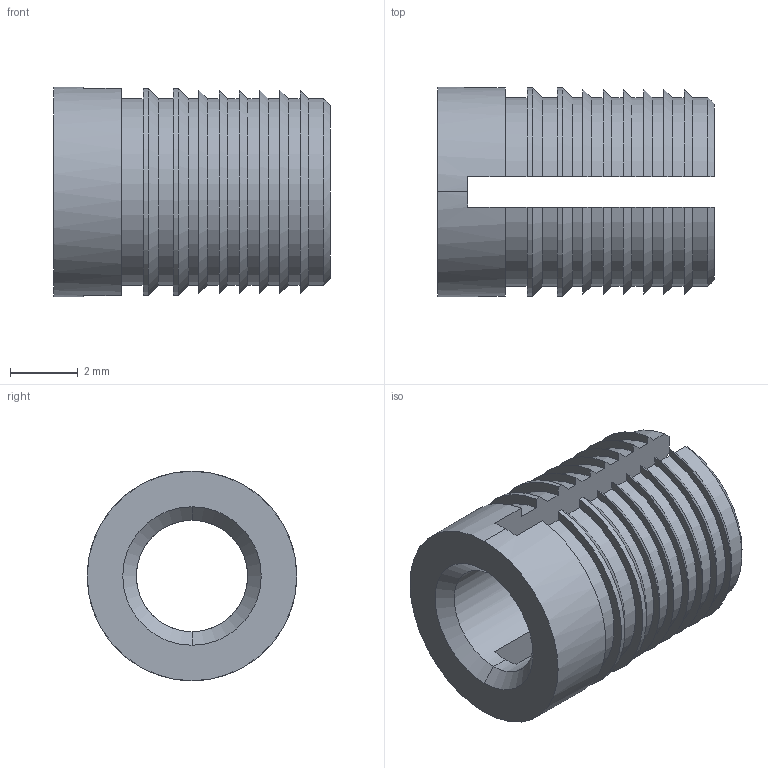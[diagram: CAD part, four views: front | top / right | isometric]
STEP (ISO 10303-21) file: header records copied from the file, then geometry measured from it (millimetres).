
FILE_DESCRIPTION (( 'STEP AP203' ), '1' );
FILE_NAME ('FSUK-EXPP-M04-S.STEP', '2021-04-15T09:23:11', ( '' ), ( '' ), 'SwSTEP 2.0', 'SolidWorks 2021', '' );
FILE_SCHEMA (( 'CONFIG_CONTROL_DESIGN' ));
Length unit declared in the file: millimetre
Products named in the file (1): FSUK-EXPP-M04-S
Bounding box: 8.2 x 6.2 x 6.2 mm (x, y, z)
Volume: 131.2 mm3; surface area: 332.3 mm2
Topology: 1 solids, 1 shells, 75 faces, 220 edges, 146 vertices
Faces by surface type: plane 27, cylinder 26, cone 22
Entity records: 2637 total; most frequent: CARTESIAN_POINT 562, ORIENTED_EDGE 440, DIRECTION 410, EDGE_CURVE 220, AXIS2_PLACEMENT_3D 154, VERTEX_POINT 146, LINE 102, VECTOR 102
